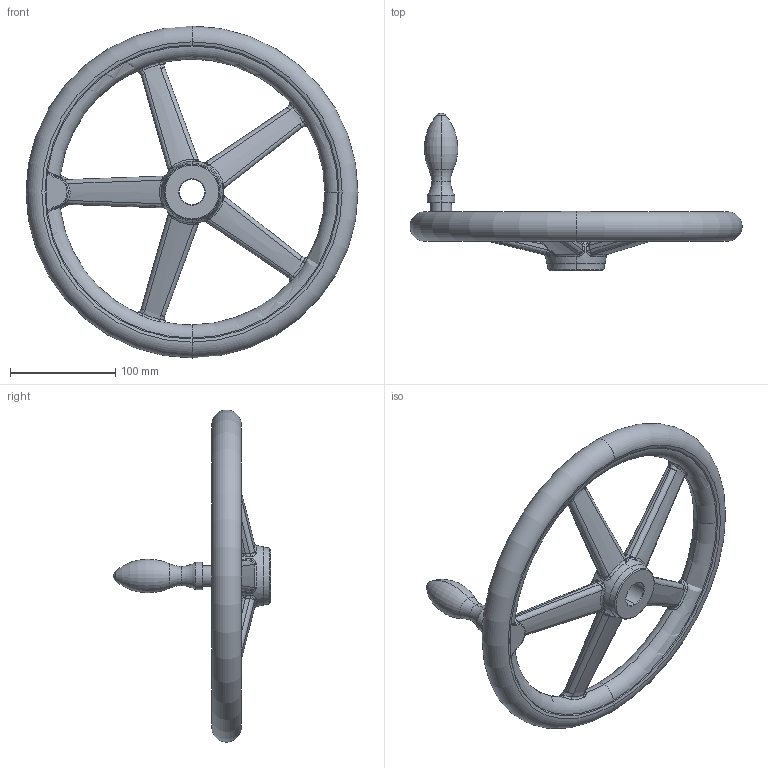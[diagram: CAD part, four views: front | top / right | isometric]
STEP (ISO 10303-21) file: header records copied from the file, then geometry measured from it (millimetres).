
FILE_DESCRIPTION (( 'STEP AP203' ), '1' );
FILE_NAME ('din950_d4_315x24.step', '2010-03-23T10:16:41', ( '_' ), ( '_' ), 'SwSTEP 2.0', 'SolidWorks 2010', '' );
FILE_SCHEMA (( 'CONFIG_CONTROL_DESIGN' ));
Length unit declared in the file: millimetre
Products named in the file (1): din950_d4_315x24
Bounding box: 314.89 x 149.5 x 314.89 mm (x, y, z)
Volume: 896070.9 mm3; surface area: 135152.8 mm2
Topology: 1 solids, 1 shells, 281 faces, 696 edges, 364 vertices
Faces by surface type: bspline 208, torus 26, cone 17, plane 16, cylinder 12, sphere 2
Entity records: 51809 total; most frequent: CARTESIAN_POINT 46612, ORIENTED_EDGE 1304, DIRECTION 667, EDGE_CURVE 652, B_SPLINE_CURVE_WITH_KNOTS 379, VERTEX_POINT 364, AXIS2_PLACEMENT_3D 320, EDGE_LOOP 284
